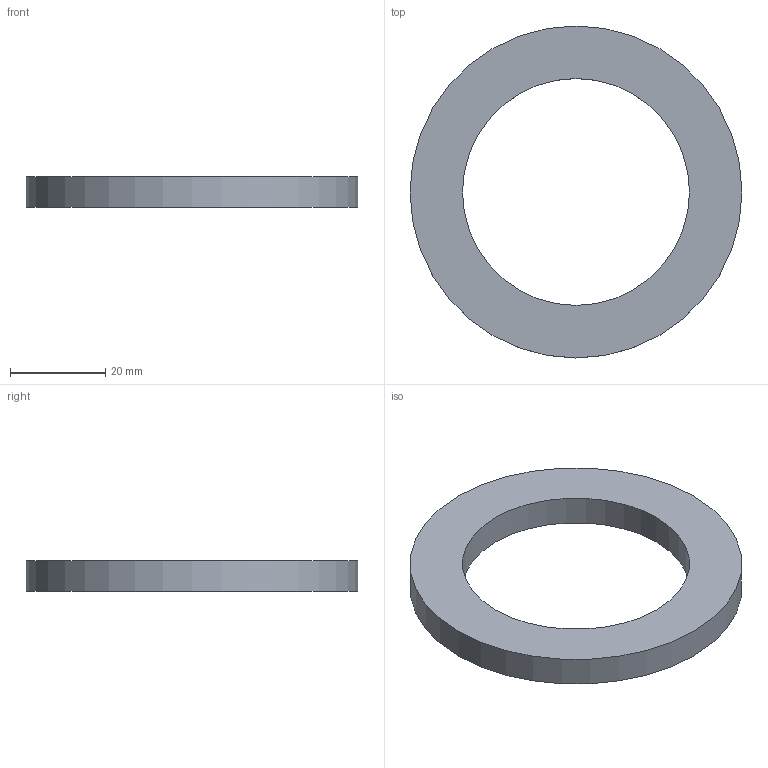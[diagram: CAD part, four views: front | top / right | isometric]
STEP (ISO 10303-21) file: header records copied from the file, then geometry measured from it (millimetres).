
FILE_DESCRIPTION(/* description */ ('Alibre Inc.'),/* implementation_level */ '2;1');
FILE_NAME(/* name */ 'export0',/* time_stamp */ '2016-05-12T11:37:38-04:00',/* author */ (''),/* organization */ (''),/* preprocessor_version */ 'ST-DEVELOPER v14',/* originating_system */ 'Alibre',/* authorisation */ '');
FILE_SCHEMA (('CONFIG_CONTROL_DESIGN'));
Length unit declared in the file: centimetre
Products named in the file (1): ID_1
Bounding box: 69.85 x 69.85 x 6.35 mm (x, y, z)
Volume: 12960.8 mm3; surface area: 6428.2 mm2
Topology: 1 solids, 1 shells, 4 faces, 6 edges, 4 vertices
Faces by surface type: cylinder 2, plane 2
Full cylindrical faces by diameter (mm): 47.752 x1, 69.85 x1
Entity records: 171 total; most frequent: DIRECTION 14, CARTESIAN_POINT 12, ORGANIZATION 8, PERSON 8, PERSON_AND_ORGANIZATION 8, ORIENTED_EDGE 8, EDGE_LOOP 8, FACE_BOUND 8
